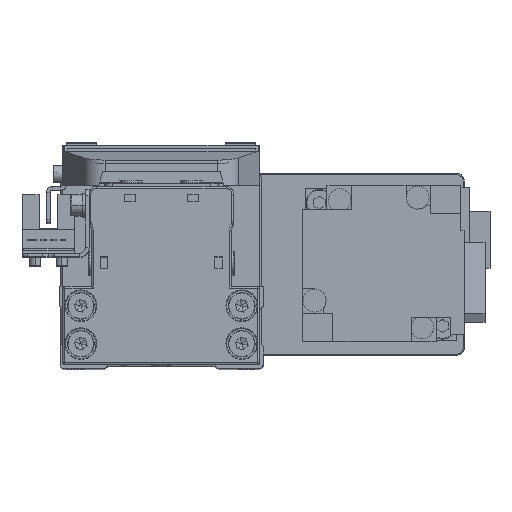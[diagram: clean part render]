
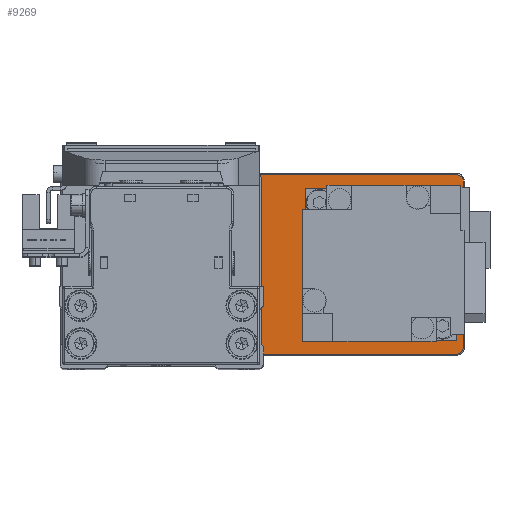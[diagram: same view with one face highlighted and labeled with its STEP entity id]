
A CAD part, top view. The second image highlights one B-rep face of the part: STEP entity #9269.
In plain terms, the highlighted planar face has unit normal (0, 0, 1).
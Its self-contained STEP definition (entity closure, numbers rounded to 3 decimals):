
#488 = DIRECTION ( 'NONE',  ( 0., 0., -1. ) ) ;
#1242 = CARTESIAN_POINT ( 'NONE',  ( 51.7, 22., 5. ) ) ;
#1293 = AXIS2_PLACEMENT_3D ( 'NONE', #31666, #4232, #16439 ) ;
#2161 = AXIS2_PLACEMENT_3D ( 'NONE', #27914, #488, #12688 ) ;
#2456 = CARTESIAN_POINT ( 'NONE',  ( -38.3, 0., 5. ) ) ;
#2523 = EDGE_CURVE ( 'NONE', #23524, #25067, #32482, .T. ) ;
#2990 = EDGE_LOOP ( 'NONE', ( #17543, #35130 ) ) ;
#3391 = CARTESIAN_POINT ( 'NONE',  ( -51.7, -22., 5. ) ) ;
#3632 = CARTESIAN_POINT ( 'NONE',  ( 51.7, -22., 5. ) ) ;
#4049 = VECTOR ( 'NONE', #20019, 1000. ) ;
#4232 = DIRECTION ( 'NONE',  ( 0., 0., 1. ) ) ;
#4253 = DIRECTION ( 'NONE',  ( 0., 0., 1. ) ) ;
#4626 = DIRECTION ( 'NONE',  ( 1., 0., 0. ) ) ;
#5618 = EDGE_LOOP ( 'NONE', ( #39296, #27310, #19480, #31498, #10856, #7841, #22400, #34492 ) ) ;
#7230 = FACE_OUTER_BOUND ( 'NONE', #5618, .T. ) ;
#7827 = CARTESIAN_POINT ( 'NONE',  ( 50., -23.7, 5. ) ) ;
#7841 = ORIENTED_EDGE ( 'NONE', *, *, #13543, .T. ) ;
#7843 = DIRECTION ( 'NONE',  ( 0., 0., 1. ) ) ;
#7932 = VERTEX_POINT ( 'NONE', #3632 ) ;
#8923 = VECTOR ( 'NONE', #31343, 1000. ) ;
#9017 = CIRCLE ( 'NONE', #31414, 1.7 ) ;
#9269 = ADVANCED_FACE ( 'NONE', ( #22398, #34635, #7230 ), #19424, .T. ) ;
#9535 = CARTESIAN_POINT ( 'NONE',  ( 30., 0., 5. ) ) ;
#9792 = CARTESIAN_POINT ( 'NONE',  ( 17.2, 0., 5. ) ) ;
#10134 = EDGE_CURVE ( 'NONE', #13137, #38338, #37369, .T. ) ;
#10466 = DIRECTION ( 'NONE',  ( 1., 0., 0. ) ) ;
#10632 = VERTEX_POINT ( 'NONE', #23008 ) ;
#10856 = ORIENTED_EDGE ( 'NONE', *, *, #10134, .T. ) ;
#11268 = VERTEX_POINT ( 'NONE', #16727 ) ;
#11748 = DIRECTION ( 'NONE',  ( 1., 0., 0. ) ) ;
#12217 = CARTESIAN_POINT ( 'NONE',  ( 50., 22., 5. ) ) ;
#12276 = CARTESIAN_POINT ( 'NONE',  ( -51.7, -22., 5. ) ) ;
#12688 = DIRECTION ( 'NONE',  ( 1., 0., 0. ) ) ;
#13137 = VERTEX_POINT ( 'NONE', #20464 ) ;
#13543 = EDGE_CURVE ( 'NONE', #38338, #10632, #30882, .T. ) ;
#13747 = CARTESIAN_POINT ( 'NONE',  ( -17.7, 0., 5. ) ) ;
#13814 = LINE ( 'NONE', #26019, #35281 ) ;
#14902 = EDGE_CURVE ( 'NONE', #30926, #19226, #38020, .T. ) ;
#14963 = AXIS2_PLACEMENT_3D ( 'NONE', #26945, #39185, #11748 ) ;
#15185 = AXIS2_PLACEMENT_3D ( 'NONE', #9535, #21721, #33957 ) ;
#15606 = DIRECTION ( 'NONE',  ( 0., -1., 0. ) ) ;
#15948 = CARTESIAN_POINT ( 'NONE',  ( -50., 23.7, 5. ) ) ;
#16439 = DIRECTION ( 'NONE',  ( 1., 0., 0. ) ) ;
#16462 = DIRECTION ( 'NONE',  ( 1., 0., 0. ) ) ;
#16727 = CARTESIAN_POINT ( 'NONE',  ( -50., -23.7, 5. ) ) ;
#16849 = VECTOR ( 'NONE', #15606, 1000. ) ;
#17543 = ORIENTED_EDGE ( 'NONE', *, *, #2523, .T. ) ;
#17860 = EDGE_CURVE ( 'NONE', #7932, #39473, #13814, .T. ) ;
#19116 = CARTESIAN_POINT ( 'NONE',  ( -50., 23.7, 5. ) ) ;
#19226 = VERTEX_POINT ( 'NONE', #2456 ) ;
#19408 = CIRCLE ( 'NONE', #2161, 10.3 ) ;
#19424 = PLANE ( 'NONE',  #1293 ) ;
#19480 = ORIENTED_EDGE ( 'NONE', *, *, #17860, .T. ) ;
#19811 = CARTESIAN_POINT ( 'NONE',  ( -28., 0., 5. ) ) ;
#20001 = AXIS2_PLACEMENT_3D ( 'NONE', #12217, #24435, #36671 ) ;
#20019 = DIRECTION ( 'NONE',  ( 1., 0., 0. ) ) ;
#20043 = DIRECTION ( 'NONE',  ( 1., 0., 0. ) ) ;
#20145 = EDGE_CURVE ( 'NONE', #25067, #23524, #32251, .T. ) ;
#20464 = CARTESIAN_POINT ( 'NONE',  ( 50., 23.7, 5. ) ) ;
#20720 = AXIS2_PLACEMENT_3D ( 'NONE', #31688, #4253, #16462 ) ;
#20739 = AXIS2_PLACEMENT_3D ( 'NONE', #19811, #32050, #4626 ) ;
#20800 = EDGE_LOOP ( 'NONE', ( #29128, #32665 ) ) ;
#21721 = DIRECTION ( 'NONE',  ( 0., 0., -1. ) ) ;
#22398 = FACE_BOUND ( 'NONE', #2990, .T. ) ;
#22400 = ORIENTED_EDGE ( 'NONE', *, *, #36655, .T. ) ;
#22891 = VERTEX_POINT ( 'NONE', #12276 ) ;
#23008 = CARTESIAN_POINT ( 'NONE',  ( -51.7, 22., 5. ) ) ;
#23451 = CARTESIAN_POINT ( 'NONE',  ( 50., -23.7, 5. ) ) ;
#23524 = VERTEX_POINT ( 'NONE', #31872 ) ;
#24435 = DIRECTION ( 'NONE',  ( 0., 0., 1. ) ) ;
#24833 = VERTEX_POINT ( 'NONE', #23451 ) ;
#25067 = VERTEX_POINT ( 'NONE', #9792 ) ;
#25653 = CARTESIAN_POINT ( 'NONE',  ( 50., -22., 5. ) ) ;
#26019 = CARTESIAN_POINT ( 'NONE',  ( 51.7, 22., 5. ) ) ;
#26945 = CARTESIAN_POINT ( 'NONE',  ( 30., 0., 5. ) ) ;
#27310 = ORIENTED_EDGE ( 'NONE', *, *, #39478, .T. ) ;
#27914 = CARTESIAN_POINT ( 'NONE',  ( -28., 0., 5. ) ) ;
#29128 = ORIENTED_EDGE ( 'NONE', *, *, #14902, .T. ) ;
#30803 = LINE ( 'NONE', #3391, #16849 ) ;
#30882 = CIRCLE ( 'NONE', #36008, 1.7 ) ;
#30926 = VERTEX_POINT ( 'NONE', #13747 ) ;
#31343 = DIRECTION ( 'NONE',  ( -1., 0., 0. ) ) ;
#31414 = AXIS2_PLACEMENT_3D ( 'NONE', #25653, #37892, #10466 ) ;
#31498 = ORIENTED_EDGE ( 'NONE', *, *, #34733, .T. ) ;
#31666 = CARTESIAN_POINT ( 'NONE',  ( 0., 0., 5. ) ) ;
#31688 = CARTESIAN_POINT ( 'NONE',  ( -50., -22., 5. ) ) ;
#31872 = CARTESIAN_POINT ( 'NONE',  ( 42.8, 0., 5. ) ) ;
#32050 = DIRECTION ( 'NONE',  ( 0., 0., -1. ) ) ;
#32251 = CIRCLE ( 'NONE', #14963, 12.8 ) ;
#32482 = CIRCLE ( 'NONE', #15185, 12.8 ) ;
#32665 = ORIENTED_EDGE ( 'NONE', *, *, #36953, .T. ) ;
#33957 = DIRECTION ( 'NONE',  ( 1., 0., 0. ) ) ;
#34492 = ORIENTED_EDGE ( 'NONE', *, *, #37514, .T. ) ;
#34635 = FACE_BOUND ( 'NONE', #20800, .T. ) ;
#34733 = EDGE_CURVE ( 'NONE', #39473, #13137, #37276, .T. ) ;
#35130 = ORIENTED_EDGE ( 'NONE', *, *, #20145, .T. ) ;
#35244 = LINE ( 'NONE', #7827, #4049 ) ;
#35264 = CARTESIAN_POINT ( 'NONE',  ( -50., 22., 5. ) ) ;
#35281 = VECTOR ( 'NONE', #38246, 1000. ) ;
#36008 = AXIS2_PLACEMENT_3D ( 'NONE', #35264, #7843, #20043 ) ;
#36364 = EDGE_CURVE ( 'NONE', #11268, #24833, #35244, .T. ) ;
#36655 = EDGE_CURVE ( 'NONE', #10632, #22891, #30803, .T. ) ;
#36671 = DIRECTION ( 'NONE',  ( 1., 0., 0. ) ) ;
#36953 = EDGE_CURVE ( 'NONE', #19226, #30926, #19408, .T. ) ;
#37276 = CIRCLE ( 'NONE', #20001, 1.7 ) ;
#37369 = LINE ( 'NONE', #19116, #8923 ) ;
#37514 = EDGE_CURVE ( 'NONE', #22891, #11268, #38002, .T. ) ;
#37892 = DIRECTION ( 'NONE',  ( 0., 0., 1. ) ) ;
#38002 = CIRCLE ( 'NONE', #20720, 1.7 ) ;
#38020 = CIRCLE ( 'NONE', #20739, 10.3 ) ;
#38246 = DIRECTION ( 'NONE',  ( 0., 1., 0. ) ) ;
#38338 = VERTEX_POINT ( 'NONE', #15948 ) ;
#39185 = DIRECTION ( 'NONE',  ( 0., 0., -1. ) ) ;
#39296 = ORIENTED_EDGE ( 'NONE', *, *, #36364, .T. ) ;
#39473 = VERTEX_POINT ( 'NONE', #1242 ) ;
#39478 = EDGE_CURVE ( 'NONE', #24833, #7932, #9017, .T. ) ;
